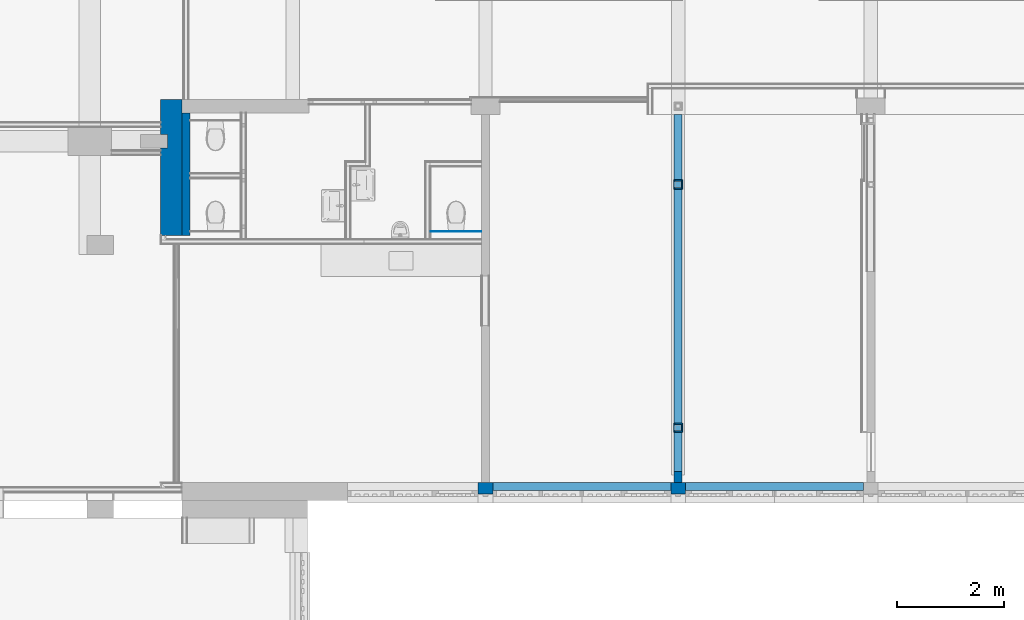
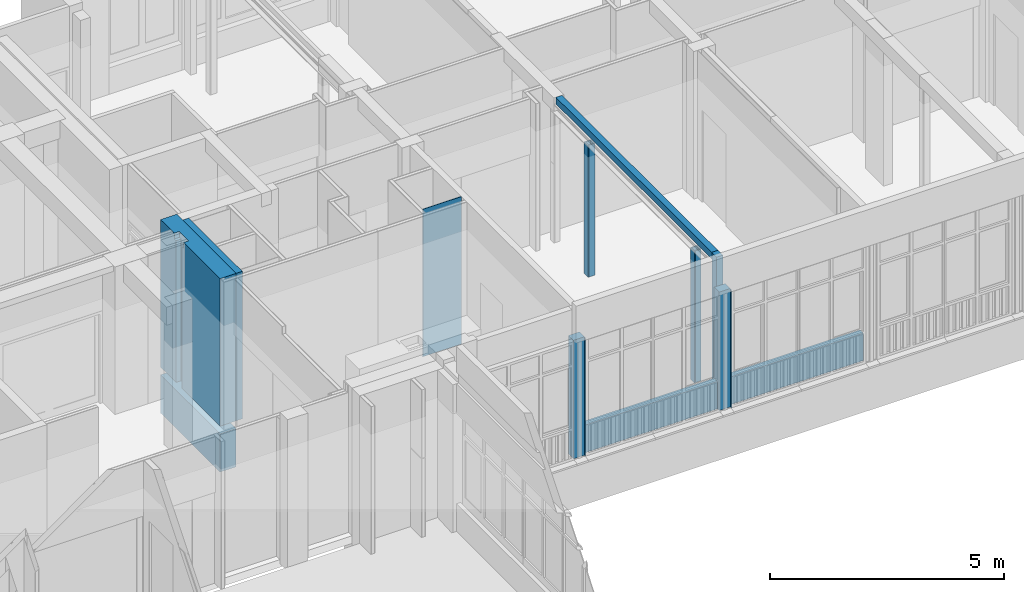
# One storey, part 85 of 135: 17 walls.
"""IFC2X3 building model written with IfcOpenShell, lengths in millimetres."""

from ifc_helpers import new_model, entity, si_unit, converted_unit, derived_unit, money_unit, direction, frame, origin_with_axes, place, context, subcontext, project, spatial, faceted_brep, material, type_object, element, save


model = new_model("IFC2X3")

# Units and contexts
model_context = context("Model", 3, precision=0.01, world=origin_with_axes(), true_north=direction((0.0, 1.0)))
body_context = subcontext(model_context, "Body", "Model", "MODEL_VIEW")
ifc_project = project(units=[si_unit("LENGTHUNIT", "METRE", prefix="MILLI"), si_unit("AREAUNIT", "SQUARE_METRE"), si_unit("VOLUMEUNIT", "CUBIC_METRE"), converted_unit("PLANEANGLEUNIT", "DEGREE", entity("IfcPlaneAngleMeasure", 0.0174532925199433), si_unit("PLANEANGLEUNIT", "RADIAN"), dimensions=[0, 0, 0, 0, 0, 0, 0]), money_unit("EUR"), converted_unit("TIMEUNIT", "Year", entity("IfcTimeMeasure", 31557600.0), si_unit("TIMEUNIT", "SECOND"), dimensions=[0, 0, 1, 0, 0, 0, 0]), si_unit("MASSUNIT", "GRAM", prefix="KILO"), si_unit("THERMODYNAMICTEMPERATUREUNIT", "DEGREE_CELSIUS"), si_unit("LUMINOUSINTENSITYUNIT", "LUMEN"), si_unit("ENERGYUNIT", "JOULE", prefix="MEGA"), derived_unit("THERMALCONDUCTANCEUNIT", [(si_unit("POWERUNIT", "WATT"), 1), (si_unit("LENGTHUNIT", "METRE"), -1), (si_unit("THERMODYNAMICTEMPERATUREUNIT", "KELVIN"), -1)]), derived_unit("SPECIFICHEATCAPACITYUNIT", [(si_unit("ENERGYUNIT", "JOULE"), 1), (si_unit("MASSUNIT", "GRAM", prefix="KILO"), -1), (si_unit("THERMODYNAMICTEMPERATUREUNIT", "KELVIN"), -1)]), derived_unit("MASSDENSITYUNIT", [(si_unit("MASSUNIT", "GRAM", prefix="KILO"), 1), (si_unit("VOLUMEUNIT", "CUBIC_METRE"), -1)])], contexts=[model_context])

# Site, building, storey
site_placement = place(None, origin_with_axes())
site = spatial("IfcSite", under=ifc_project, at=site_placement, Name="Site", CompositionType="ELEMENT")
building_placement = place(site_placement, origin_with_axes())
building = spatial("IfcBuilding", under=site, at=building_placement, Name="Naam gebouw", CompositionType="ELEMENT")
storey_placement = place(building_placement, origin_with_axes())
storey = spatial("IfcBuildingStorey", under=building, at=storey_placement, Name="Begane grond N", CompositionType="ELEMENT", Elevation=0.0)

# Walls
ifc_material_1 = material(Name="ALG - CONSTRUCTIEF")
wall_type_1 = type_object("IfcWallType", Name="ALG - CONSTRUCTIEF 150", PredefinedType="NOTDEFINED")
wall_1_placement = place(storey_placement, frame((39599.99999999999, 10825.91242510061, -100.0), z_axis=(0.0, 0.0, 1.0), x_axis=(0.0, 1.0, 0.0)))
element("IfcWall", 1, at=wall_1_placement, inside=storey, type_object=wall_type_1, material=ifc_material_1, Name="_Wand-x", context=body_context, shape_type="Brep", body=[
    faceted_brep([(374.9999999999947, 75.00000000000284, 100.0), (374.9999999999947, 75.00000000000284, 3950.0), (374.9999999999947, -75.00000000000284, 3950.0), (374.9999999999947, -75.00000000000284, 100.0), (165.0000000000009, 75.00000000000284, 100.0), (164.9999999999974, 75.00000000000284, 3950.0), (164.9999999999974, -75.00000000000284, 3950.0), (165.0000000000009, -75.00000000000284, 100.0)], [[[0, 1, 2, 3]], [[4, 5, 1, 0]], [[5, 6, 2, 1]], [[3, 2, 6, 7]], [[4, 0, 3, 7]], [[7, 6, 5, 4]]]),
])
wall_2_placement = place(storey_placement, frame((30479.18709933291, 15608.41242510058, -100.0), z_axis=(0.0, 0.0, 1.0), x_axis=(0.0, 1.0, 0.0)))
element("IfcWall", 2, at=wall_2_placement, inside=storey, type_object=wall_type_1, material=ifc_material_1, Name="_Wand-x", context=body_context, shape_type="Brep", body=[
    faceted_brep([(2292.500000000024, 149.9999999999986, 100.0), (2292.500000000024, 149.9999999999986, 3950.0), (2292.500000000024, 0.0, 3950.0), (2292.500000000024, 0.0, 100.0), (0.0, 149.9999999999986, 100.0), (0.0, 149.9999999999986, 3950.0), (0.0, 0.0, 3950.0), (0.0, 0.0, 100.0)], [[[0, 1, 2, 3]], [[4, 5, 1, 0]], [[5, 6, 2, 1]], [[3, 2, 6, 7]], [[4, 0, 3, 7]], [[7, 6, 5, 4]]]),
])
wall_type_2 = type_object("IfcWallType", Name="ALG - CONSTRUCTIEF 400", PredefinedType="NOTDEFINED")
wall_3_placement = place(storey_placement, frame((29929.18709933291, 18150.91242510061, -1200.0), z_axis=(0.0, 0.0, 1.0), x_axis=(0.0, -1.0, 0.0)))
element("IfcWall", 3, at=wall_3_placement, inside=storey, type_object=wall_type_2, material=ifc_material_1, Name="_Wand-x", context=body_context, shape_type="Brep", body=[
    faceted_brep([(584.9999999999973, 0.0, 4899.999999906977), (659.9999999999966, 0.0, 4899.999999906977), (659.9999999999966, 126.8129006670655, 4899.999999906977), (584.9999999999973, 126.8129006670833, 4899.999999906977), (0.0, 0.0, 1200.0), (659.9999999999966, 0.0, 1200.0), (584.9999999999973, 0.0, 5050.000000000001), (0.0, 0.0, 5050.000000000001), (659.9999999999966, 126.8129006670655, 1200.0), (909.9999999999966, 126.8129006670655, 1200.0), (909.9999999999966, 126.8129006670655, 4899.999999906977), (984.9999999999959, 126.8129006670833, 4899.999999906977), (984.9999999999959, 126.8129006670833, 5050.000000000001), (584.9999999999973, 126.8129006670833, 5050.000000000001), (0.0, 399.9999999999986, 1200.0), (2542.500000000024, 399.9999999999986, 1200.0), (2542.500000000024, 0.0, 1200.0), (909.9999999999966, 0.0, 1200.0), (984.9999999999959, 0.0, 5050.000000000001), (2542.500000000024, 0.0, 5050.000000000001), (2542.500000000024, 399.9999999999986, 5050.000000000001), (0.0, 400.0000000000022, 5050.000000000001), (909.9999999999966, 0.0, 4899.999999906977), (984.9999999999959, 0.0, 4899.999999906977)], [[[0, 1, 2, 3]], [[4, 5, 1, 0, 6, 7]], [[8, 2, 1, 5]], [[3, 2, 8, 9, 10, 11, 12, 13]], [[0, 3, 13, 6]], [[9, 8, 5, 4, 14, 15, 16, 17]], [[6, 13, 12, 18, 19, 20, 21, 7]], [[21, 14, 4, 7]], [[17, 22, 10, 9]], [[11, 10, 22, 23]], [[11, 23, 18, 12]], [[20, 15, 14, 21]], [[19, 16, 15, 20]], [[23, 22, 17, 16, 19, 18]]]),
    faceted_brep([(0.0, 0.0, 0.0), (0.0, 0.0, 1000.0), (0.0, 399.9999999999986, 1000.0), (0.0, 399.9999999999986, 0.0), (2542.500000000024, 0.0, 0.0), (2542.500000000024, 0.0, 1000.0), (2542.500000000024, 399.9999999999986, 999.9999999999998), (2542.500000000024, 399.9999999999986, 0.0)], [[[0, 1, 2, 3]], [[4, 5, 1, 0]], [[5, 6, 2, 1]], [[3, 2, 6, 7]], [[7, 4, 0, 3]], [[7, 6, 5, 4]]]),
])
wall_type_3 = type_object("IfcWallType", Name="ALG - CONSTRUCTIEF 146", PredefinedType="NOTDEFINED")
wall_4_placement = place(storey_placement, frame((39462.68197425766, 10990.91242510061, 0.0), z_axis=(0.0, 0.0, 1.0), x_axis=(-1.0, 0.0, 0.0)))
element("IfcWall", 4, at=wall_4_placement, inside=storey, type_object=wall_type_3, material=ifc_material_1, Name="_Wand-x", context=body_context, shape_type="Brep", body=[
    faceted_brep([(0.0, 146.0000000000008, 0.0), (3324.999999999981, 145.999999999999, 0.0), (3324.999999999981, 0.0, 0.0), (0.0, 0.0, 0.0), (0.0, 146.0000000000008, 720.0000000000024), (3324.999999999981, 145.999999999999, 720.0000000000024), (3324.999999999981, 0.0, 720.0000000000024), (0.0, 0.0, 720.0000000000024)], [[[0, 1, 2, 3]], [[4, 5, 1, 0]], [[2, 1, 5, 6]], [[3, 2, 6, 7]], [[4, 0, 3, 7]], [[7, 6, 5, 4]]]),
])
wall_5_placement = place(storey_placement, frame((43062.49999999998, 10990.91242510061, 0.0), z_axis=(0.0, 0.0, 1.0), x_axis=(-1.0, 0.0, 0.0)))
element("IfcWall", 5, at=wall_5_placement, inside=storey, type_object=wall_type_3, material=ifc_material_1, Name="_Wand-x", context=body_context, shape_type="Brep", body=[
    faceted_brep([(0.0, 146.0000000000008, 0.0), (3324.818025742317, 145.999999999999, 0.0), (3324.818025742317, 0.0, 0.0), (0.0, 0.0, 0.0), (0.0, 146.0000000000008, 720.0000000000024), (3324.818025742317, 145.999999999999, 720.0000000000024), (3324.818025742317, 0.0, 720.0000000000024), (0.0, 0.0, 720.0000000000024)], [[[0, 1, 2, 3]], [[4, 5, 1, 0]], [[2, 1, 5, 6]], [[3, 2, 6, 7]], [[4, 0, 3, 7]], [[7, 6, 5, 4]]]),
])
ifc_material_2 = material(Name="Gipsplaat")
wall_type_4 = type_object("IfcWallType", Name="Gipsplaat 25", PredefinedType="NOTDEFINED")
wall_6_placement = place(storey_placement, frame((39515.00000000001, 16475.91242510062, 0.0), z_axis=(0.0, 0.0, 1.0), x_axis=(1.0, 0.0, 0.0)))
element("IfcWall", 6, at=wall_6_placement, inside=storey, type_object=wall_type_4, material=ifc_material_2, Name="_Wand-x", context=body_context, shape_type="Brep", body=[
    faceted_brep([(169.9999999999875, 25.00000000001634, 0.0), (169.9999999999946, 0.0, 0.0), (24.99999999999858, 0.0, 0.0), (24.99999999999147, 25.00000000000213, 0.0), (169.9999999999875, 25.00000000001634, 3439.999999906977), (169.9999999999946, 0.0, 3439.999999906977), (24.99999999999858, 0.0, 3439.999999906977), (24.99999999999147, 25.00000000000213, 3439.999999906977)], [[[0, 1, 2, 3]], [[1, 0, 4, 5]], [[1, 5, 6, 2]], [[7, 3, 2, 6]], [[4, 0, 3, 7]], [[5, 4, 7, 6]]]),
])
wall_7_placement = place(storey_placement, frame((39515.00000000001, 11930.91242510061, 0.0), z_axis=(0.0, 0.0, 1.0), x_axis=(0.0, 1.0, 0.0)))
element("IfcWall", 7, at=wall_7_placement, inside=storey, type_object=wall_type_4, material=ifc_material_2, Name="_Wand-x", context=body_context, shape_type="Brep", body=[
    faceted_brep([(169.999999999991, -24.99999999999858, 3439.999999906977), (169.999999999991, 0.0, 3439.999999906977), (0.0, 0.0, 3439.999999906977), (0.0, -24.99999999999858, 3439.999999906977), (169.999999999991, -24.99999999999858, 0.0), (169.999999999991, 0.0, 0.0), (0.0, 0.0, 0.0), (0.0, -24.99999999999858, 0.0)], [[[0, 1, 2, 3]], [[1, 0, 4, 5]], [[1, 5, 6, 2]], [[7, 3, 2, 6]], [[4, 0, 3, 7]], [[5, 4, 7, 6]]]),
])
wall_8_placement = place(storey_placement, frame((39685.0, 16475.9124251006, 0.0), z_axis=(0.0, 0.0, 1.0), x_axis=(0.0, 1.0, 0.0)))
element("IfcWall", 8, at=wall_8_placement, inside=storey, type_object=wall_type_4, material=ifc_material_2, Name="_Wand-x", context=body_context, shape_type="Brep", body=[
    faceted_brep([(145.0000000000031, 25.00000000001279, 0.0), (145.0000000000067, 0.0, 0.0), (24.99999999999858, 0.0, 0.0), (24.99999999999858, 24.99999999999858, 0.0), (145.0000000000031, 25.00000000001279, 3439.999999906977), (145.0000000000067, 0.0, 3439.999999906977), (24.99999999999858, 0.0, 3439.999999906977), (24.99999999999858, 24.99999999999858, 3439.999999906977)], [[[0, 1, 2, 3]], [[1, 0, 4, 5]], [[1, 5, 6, 2]], [[7, 3, 2, 6]], [[4, 0, 3, 7]], [[5, 4, 7, 6]]]),
])
wall_9_placement = place(storey_placement, frame((39515.00000000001, 16645.9124251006, 0.0), z_axis=(0.0, 0.0, 1.0), x_axis=(1.0, 0.0, 0.0)))
element("IfcWall", 9, at=wall_9_placement, inside=storey, type_object=wall_type_4, material=ifc_material_2, Name="_Wand-x", context=body_context, shape_type="Brep", body=[
    faceted_brep([(170.0000000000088, -24.99999999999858, 3439.999999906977), (170.0000000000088, 0.0, 3439.999999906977), (24.99999999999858, 0.0, 3439.999999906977), (24.99999999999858, -24.99999999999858, 3439.999999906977), (170.0000000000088, -24.99999999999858, 0.0), (170.0000000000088, 0.0, 0.0), (24.99999999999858, 0.0, 0.0), (24.99999999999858, -24.99999999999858, 0.0)], [[[0, 1, 2, 3]], [[1, 0, 4, 5]], [[1, 5, 6, 2]], [[7, 3, 2, 6]], [[4, 0, 3, 7]], [[5, 4, 7, 6]]]),
])
wall_10_placement = place(storey_placement, frame((39515.00000000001, 16475.91242510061, 0.0), z_axis=(0.0, 0.0, 1.0), x_axis=(0.0, 1.0, 0.0)))
element("IfcWall", 10, at=wall_10_placement, inside=storey, type_object=wall_type_4, material=ifc_material_2, Name="_Wand-x", context=body_context, shape_type="Brep", body=[
    faceted_brep([(169.999999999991, -24.99999999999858, 3439.999999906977), (169.999999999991, 0.0, 3439.999999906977), (0.0, 0.0, 3439.999999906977), (0.0, -24.99999999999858, 3439.999999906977), (169.999999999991, -24.99999999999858, 0.0), (169.999999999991, 0.0, 0.0), (0.0, 0.0, 0.0), (0.0, -24.99999999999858, 0.0)], [[[0, 1, 2, 3]], [[1, 0, 4, 5]], [[1, 5, 6, 2]], [[7, 3, 2, 6]], [[4, 0, 3, 7]], [[5, 4, 7, 6]]]),
])
wall_11_placement = place(storey_placement, frame((39515.00000000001, 11930.91242510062, 0.0), z_axis=(0.0, 0.0, 1.0), x_axis=(1.0, 0.0, 0.0)))
element("IfcWall", 11, at=wall_11_placement, inside=storey, type_object=wall_type_4, material=ifc_material_2, Name="_Wand-x", context=body_context, shape_type="Brep", body=[
    faceted_brep([(169.9999999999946, 25.00000000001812, 0.0), (169.9999999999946, 0.0, 0.0), (24.99999999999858, 0.0, 0.0), (24.99999999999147, 25.00000000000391, 0.0), (169.9999999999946, 25.00000000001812, 3439.999999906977), (169.9999999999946, 0.0, 3439.999999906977), (24.99999999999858, 0.0, 3439.999999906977), (24.99999999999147, 25.00000000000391, 3439.999999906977)], [[[0, 1, 2, 3]], [[1, 0, 4, 5]], [[1, 5, 6, 2]], [[7, 3, 2, 6]], [[4, 0, 3, 7]], [[5, 4, 7, 6]]]),
])
wall_12_placement = place(storey_placement, frame((39685.0, 11930.9124251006, 0.0), z_axis=(0.0, 0.0, 1.0), x_axis=(0.0, 1.0, 0.0)))
element("IfcWall", 12, at=wall_12_placement, inside=storey, type_object=wall_type_4, material=ifc_material_2, Name="_Wand-x", context=body_context, shape_type="Brep", body=[
    faceted_brep([(145.0000000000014, 25.00000000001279, 0.0), (145.0000000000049, 0.0, 0.0), (25.00000000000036, 0.0, 0.0), (24.99999999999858, 25.00000000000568, 0.0), (145.0000000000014, 25.00000000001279, 3439.999999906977), (145.0000000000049, 0.0, 3439.999999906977), (25.00000000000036, 0.0, 3439.999999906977), (24.99999999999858, 25.00000000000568, 3439.999999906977)], [[[0, 1, 2, 3]], [[1, 0, 4, 5]], [[1, 5, 6, 2]], [[7, 3, 2, 6]], [[4, 0, 3, 7]], [[5, 4, 7, 6]]]),
])
wall_13_placement = place(storey_placement, frame((39515.00000000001, 12100.9124251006, 0.0), z_axis=(0.0, 0.0, 1.0), x_axis=(1.0, 0.0, 0.0)))
element("IfcWall", 13, at=wall_13_placement, inside=storey, type_object=wall_type_4, material=ifc_material_2, Name="_Wand-x", context=body_context, shape_type="Brep", body=[
    faceted_brep([(170.0000000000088, -25.00000000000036, 3439.999999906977), (170.0000000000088, 0.0, 3439.999999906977), (24.99999999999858, 0.0, 3439.999999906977), (24.99999999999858, -25.00000000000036, 3439.999999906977), (170.0000000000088, -25.00000000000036, 0.0), (170.0000000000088, 0.0, 0.0), (24.99999999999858, 0.0, 0.0), (24.99999999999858, -25.00000000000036, 0.0)], [[[0, 1, 2, 3]], [[1, 0, 4, 5]], [[1, 5, 6, 2]], [[7, 3, 2, 6]], [[4, 0, 3, 7]], [[5, 4, 7, 6]]]),
])
ifc_material_3 = material(Name="ALG - GEVEL")
wall_type_5 = type_object("IfcWallType", Name="ALG - GEVEL 260", PredefinedType="NOTDEFINED")
for number, where, z_axis, x_axis, name in (
    (14, (39737.68197425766, 10730.91242510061, 0.0), (0.0, 0.0, 1.0), (-1.0, 0.0, 0.0), "_Wand-x"),
    (15, (36137.68197425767, 10730.91242510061, 0.0), (0.0, 0.0, 1.0), (-1.0, 0.0, 0.0), "_Wand-x"),
):
    element("IfcWall", number, at=place(storey_placement, frame(where, z_axis=z_axis, x_axis=x_axis)), inside=storey, type_object=wall_type_5, material=ifc_material_3, Name=name, context=body_context, shape_type="Brep", body=[
        faceted_brep([(275.0000000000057, -44.00000000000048, 3090.000000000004), (0.1819742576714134, -44.00000000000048, 3090.000000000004), (0.1819742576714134, 0.0, 3090.000000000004), (0.0, 0.0, 3089.999999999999), (0.0, -259.9999999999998, 3089.999999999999), (275.0000000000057, -259.9999999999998, 3089.999999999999), (275.0000000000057, -44.00000000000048, 0.0), (0.1819742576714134, -44.00000000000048, 0.0), (0.1819742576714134, 0.0, 0.0), (0.0, 0.0, 0.0), (0.0, -259.9999999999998, 0.0), (275.0000000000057, -259.9999999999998, 0.0)], [[[0, 1, 2, 3, 4, 5]], [[0, 6, 7, 1]], [[8, 2, 1, 7]], [[3, 2, 8, 9]], [[9, 10, 4, 3]], [[4, 10, 11, 5]], [[11, 6, 0, 5]], [[7, 6, 11, 10, 9, 8]]]),
    ])
wall_type_6 = type_object("IfcWallType", Name="Metalstud 150 enkel 150", PredefinedType="NOTDEFINED")
wall_14_placement = place(storey_placement, frame((35925.00000000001, 15690.91242510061, 0.0), z_axis=(0.0, 0.0, 1.0), x_axis=(-1.0, 0.0, 0.0)))
element("IfcWall", 16, at=wall_14_placement, inside=storey, type_object=wall_type_6, material=ifc_material_2, Name="_Wand-x", context=body_context, shape_type="Brep", body=[
    faceted_brep([(949.9999999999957, 0.0, 0.0), (949.9999999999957, 0.0, 3850.000000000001), (0.0, 0.0, 3850.000000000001), (0.0, 0.0, 0.0), (949.9999999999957, 12.49999999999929, 0.0), (949.9999999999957, 12.50000000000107, 3850.000000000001), (0.0, 12.50000000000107, 3850.000000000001), (0.0, 12.49999999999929, 0.0)], [[[0, 1, 2, 3]], [[4, 5, 1, 0]], [[5, 6, 2, 1]], [[3, 2, 6, 7]], [[3, 7, 4, 0]], [[7, 6, 5, 4]]]),
])
ifc_material_4 = material(Name="Steen - Betonblok C")
wall_type_7 = type_object("IfcWallType", Name="Steen - Betonblok C 150", PredefinedType="NOTDEFINED")
wall_15_placement = place(storey_placement, frame((39599.99999999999, 17870.91242510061, 3680.005990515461), z_axis=(0.0, 0.0, 1.0), x_axis=(0.0, -1.0, 0.0)))
element("IfcWall", 17, at=wall_15_placement, inside=storey, type_object=wall_type_7, material=ifc_material_4, Name="_Wand-x", context=body_context, shape_type="Brep", body=[
    faceted_brep([(0.0, -75.00000000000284, 169.9940094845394), (6740.000000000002, -75.00000000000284, 169.9940094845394), (6740.000000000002, 74.99999999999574, 169.9940094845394), (0.0, 75.00000000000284, 169.9940094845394), (0.0, -75.00000000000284, 0.0), (6740.000000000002, -75.00000000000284, 0.0), (6740.000000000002, 74.99999999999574, 0.0), (0.0, 75.00000000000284, 0.0)], [[[0, 1, 2, 3]], [[4, 5, 1, 0]], [[2, 1, 5, 6]], [[3, 2, 6, 7]], [[4, 0, 3, 7]], [[7, 6, 5, 4]]]),
])

save(model, "model.ifc")
